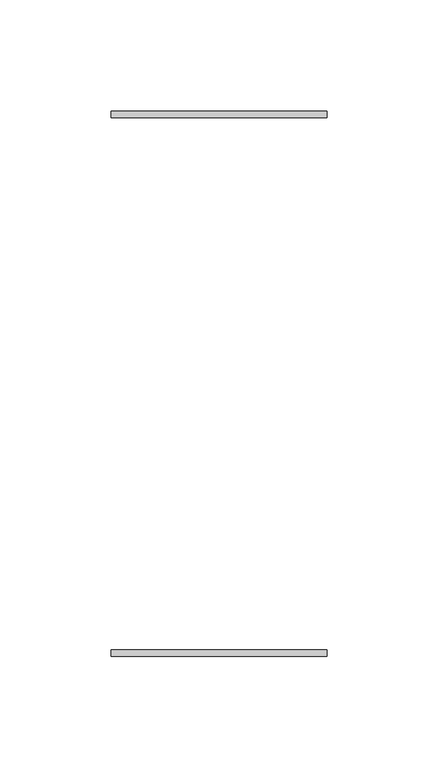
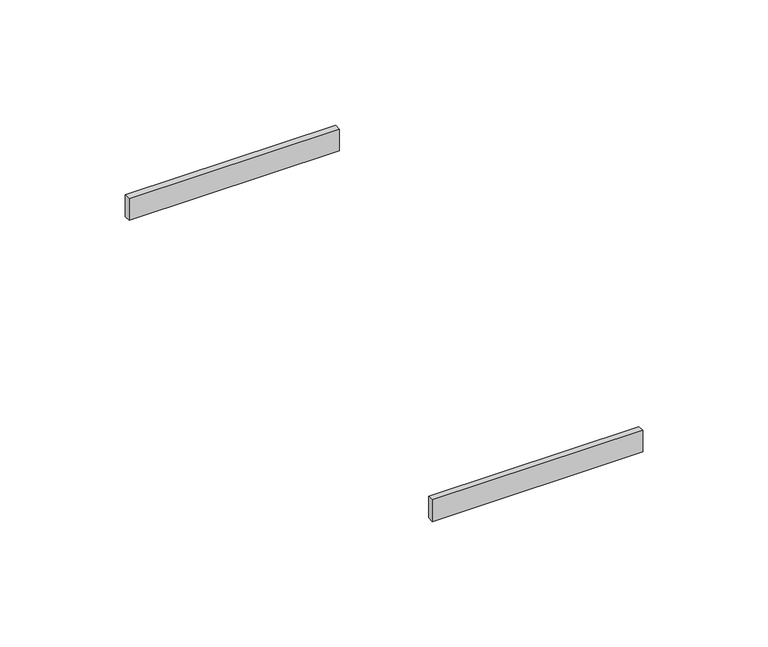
"""IFC4 building model written with IfcOpenShell, lengths in millimetres: cable carrier fitting geometry, Electrical_Installation_Hager_Trunking-Connector : Electrical_Installation_Hager_Trunking-Connector."""

from ifc_helpers import new_model, si_unit, frame, origin, place, context, project, spatial, polyline, outline, extrude, source, transform, mapped, element, save


def cable_carrier_fitting_90cd9352(model_context):
    return source(origin(), model_context, "Body", "SweptSolid", [
        extrude(outline(polyline([(48.4677977, -119.5), (48.4677977, -122.5), (-48.4677977, -122.5), (-48.4677977, -119.5), (48.4677977, -119.5)])), frame((0.0, 0.0, -1.5), z_axis=(0.0, 0.0, 1.0), x_axis=(1.0, 0.0, 0.0)), (0.0, 0.0, 1.0), 10.5),
        extrude(outline(polyline([(48.4677977, 122.5), (48.4677977, 119.5), (-48.4677977, 119.5), (-48.4677977, 122.5), (48.4677977, 122.5)])), frame((0.0, 0.0, -1.5), z_axis=(0.0, 0.0, 1.0), x_axis=(1.0, 0.0, 0.0)), (0.0, 0.0, 1.0), 10.5),
    ])


if __name__ == "__main__":
    model = new_model("IFC4")
    model_context = context("Model", 3, world=origin())
    ifc_project = project(units=[si_unit("LENGTHUNIT", "METRE", prefix="MILLI")], contexts=[model_context])
    site = spatial("IfcSite", under=ifc_project)
    building = spatial("IfcBuilding", under=site)
    placement = place(None, origin())
    cable_carrier_fitting_shape = cable_carrier_fitting_90cd9352(model_context)
    element("IfcCableCarrierFitting", 1, ObjectType="Electrical_Installation_Hager_Trunking-Connector : Electrical_Installation_Hager_Trunking-Connector", at=placement, inside=building, context=model_context, shape_type="MappedRepresentation", body=[
        mapped(cable_carrier_fitting_shape, transform((0.0, 0.0, 0.0), x_axis=(1.0, 0.0, 0.0), y_axis=(0.0, 1.0, 0.0), z_axis=(0.0, 0.0, 1.0))),
    ])
    save(model, "model.ifc")
